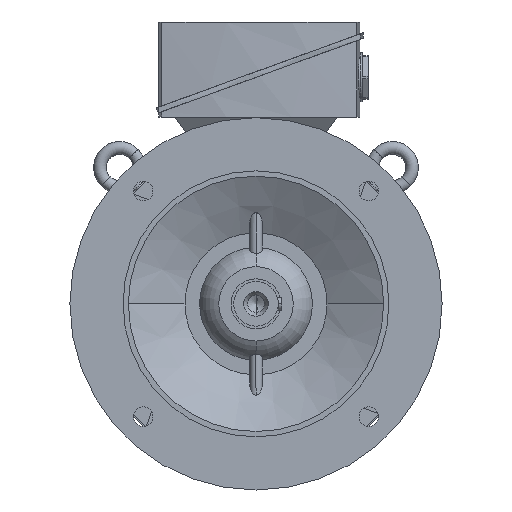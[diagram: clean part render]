
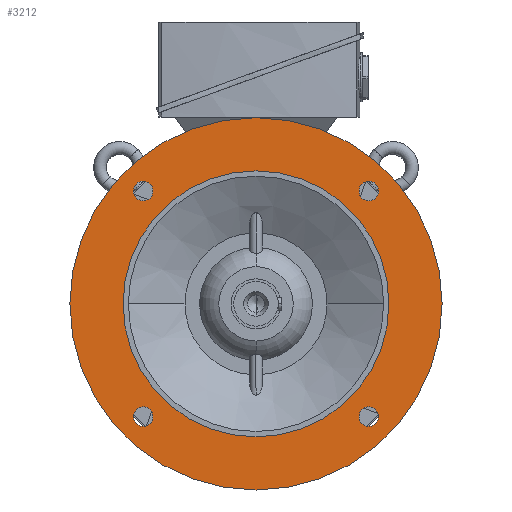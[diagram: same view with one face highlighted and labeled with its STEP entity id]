
A CAD part, left-side view. The second image highlights one B-rep face of the part: STEP entity #3212.
In plain terms, the highlighted planar face has unit normal (-1, 0, 0).
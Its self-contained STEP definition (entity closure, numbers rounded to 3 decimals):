
#3212=ADVANCED_FACE('',(#6499,#6500,#6501,#6502,#6503,#6504),#6505,.T.);
#6499=FACE_BOUND('',#9794,.T.);
#6500=FACE_BOUND('',#9795,.T.);
#6501=FACE_BOUND('',#9796,.T.);
#6502=FACE_BOUND('',#9797,.T.);
#6503=FACE_OUTER_BOUND('',#9798,.T.);
#6504=FACE_BOUND('',#9799,.T.);
#6505=PLANE('',#9800);
#9794=EDGE_LOOP('',(#19835,#19836));
#9795=EDGE_LOOP('',(#19837,#19838));
#9796=EDGE_LOOP('',(#19839,#19840));
#9797=EDGE_LOOP('',(#19841,#19842));
#9798=EDGE_LOOP('',(#19843,#19844));
#9799=EDGE_LOOP('',(#19845,#19846));
#9800=AXIS2_PLACEMENT_3D('',#19847,#19848,#19849);
#19835=ORIENTED_EDGE('',*,*,#23829,.T.);
#19836=ORIENTED_EDGE('',*,*,#20122,.T.);
#19837=ORIENTED_EDGE('',*,*,#23832,.T.);
#19838=ORIENTED_EDGE('',*,*,#20117,.T.);
#19839=ORIENTED_EDGE('',*,*,#23835,.T.);
#19840=ORIENTED_EDGE('',*,*,#20112,.T.);
#19841=ORIENTED_EDGE('',*,*,#23838,.T.);
#19842=ORIENTED_EDGE('',*,*,#20107,.T.);
#19843=ORIENTED_EDGE('',*,*,#20097,.F.);
#19844=ORIENTED_EDGE('',*,*,#23881,.F.);
#19845=ORIENTED_EDGE('',*,*,#20104,.T.);
#19846=ORIENTED_EDGE('',*,*,#23879,.T.);
#19847=CARTESIAN_POINT('',(-80.0,150.0,0.0));
#19848=DIRECTION('',(-1.0,0.0,0.0));
#19849=DIRECTION('',(0.0,-1.0,0.0));
#20097=EDGE_CURVE('',#24166,#24169,#24170,.T.);
#20104=EDGE_CURVE('',#24176,#24180,#24182,.T.);
#20107=EDGE_CURVE('',#24187,#24184,#24188,.T.);
#20112=EDGE_CURVE('',#24196,#24193,#24197,.T.);
#20117=EDGE_CURVE('',#24205,#24202,#24206,.T.);
#20122=EDGE_CURVE('',#24214,#24211,#24215,.T.);
#23829=EDGE_CURVE('',#24211,#24214,#29718,.T.);
#23832=EDGE_CURVE('',#24202,#24205,#29721,.T.);
#23835=EDGE_CURVE('',#24193,#24196,#29724,.T.);
#23838=EDGE_CURVE('',#24184,#24187,#29727,.T.);
#23879=EDGE_CURVE('',#24180,#24176,#29776,.T.);
#23881=EDGE_CURVE('',#24169,#24166,#29778,.T.);
#24166=VERTEX_POINT('',#30369);
#24169=VERTEX_POINT('',#30373);
#24170=CIRCLE('',#30374,175.0);
#24176=VERTEX_POINT('',#30381);
#24180=VERTEX_POINT('',#30386);
#24182=CIRCLE('',#30389,125.0);
#24184=VERTEX_POINT('',#30391);
#24187=VERTEX_POINT('',#30395);
#24188=CIRCLE('',#30396,9.25);
#24193=VERTEX_POINT('',#30402);
#24196=VERTEX_POINT('',#30406);
#24197=CIRCLE('',#30407,9.25);
#24202=VERTEX_POINT('',#30413);
#24205=VERTEX_POINT('',#30417);
#24206=CIRCLE('',#30418,9.25);
#24211=VERTEX_POINT('',#30424);
#24214=VERTEX_POINT('',#30428);
#24215=CIRCLE('',#30429,9.25);
#29718=CIRCLE('',#47122,9.25);
#29721=CIRCLE('',#47125,9.25);
#29724=CIRCLE('',#47128,9.25);
#29727=CIRCLE('',#47131,9.25);
#29776=CIRCLE('',#47200,125.0);
#29778=CIRCLE('',#47202,175.0);
#30369=CARTESIAN_POINT('',(-80.0,175.0,0.0));
#30373=CARTESIAN_POINT('',(-80.0,-175.0,0.));
#30374=AXIS2_PLACEMENT_3D('',#47380,#47381,#47382);
#30381=CARTESIAN_POINT('',(-80.0,125.0,0.0));
#30386=CARTESIAN_POINT('',(-80.0,-125.0,0.));
#30389=AXIS2_PLACEMENT_3D('',#47392,#47393,#47394);
#30391=CARTESIAN_POINT('',(-80.0,-112.607,112.607));
#30395=CARTESIAN_POINT('',(-80.0,-99.525,99.525));
#30396=AXIS2_PLACEMENT_3D('',#47396,#47397,#47398);
#30402=CARTESIAN_POINT('',(-80.0,112.607,112.607));
#30406=CARTESIAN_POINT('',(-80.0,99.525,99.525));
#30407=AXIS2_PLACEMENT_3D('',#47404,#47405,#47406);
#30413=CARTESIAN_POINT('',(-80.0,112.607,-112.607));
#30417=CARTESIAN_POINT('',(-80.0,99.525,-99.525));
#30418=AXIS2_PLACEMENT_3D('',#47412,#47413,#47414);
#30424=CARTESIAN_POINT('',(-80.0,-112.607,-112.607));
#30428=CARTESIAN_POINT('',(-80.0,-99.525,-99.525));
#30429=AXIS2_PLACEMENT_3D('',#47420,#47421,#47422);
#47122=AXIS2_PLACEMENT_3D('',#50768,#50769,#50770);
#47125=AXIS2_PLACEMENT_3D('',#50774,#50775,#50776);
#47128=AXIS2_PLACEMENT_3D('',#50780,#50781,#50782);
#47131=AXIS2_PLACEMENT_3D('',#50786,#50787,#50788);
#47200=AXIS2_PLACEMENT_3D('',#50815,#50816,#50817);
#47202=AXIS2_PLACEMENT_3D('',#50818,#50819,#50820);
#47380=CARTESIAN_POINT('',(-80.0,0.0,0.0));
#47381=DIRECTION('',(1.0,0.0,0.0));
#47382=DIRECTION('',(0.0,1.0,0.0));
#47392=CARTESIAN_POINT('',(-80.0,0.0,0.0));
#47393=DIRECTION('',(1.0,0.0,0.0));
#47394=DIRECTION('',(0.0,1.0,0.0));
#47396=CARTESIAN_POINT('',(-80.0,-106.066,106.066));
#47397=DIRECTION('',(1.0,0.0,-0.0));
#47398=DIRECTION('',(0.0,-0.707,0.707));
#47404=CARTESIAN_POINT('',(-80.0,106.066,106.066));
#47405=DIRECTION('',(1.0,0.0,-0.0));
#47406=DIRECTION('',(0.0,0.707,0.707));
#47412=CARTESIAN_POINT('',(-80.0,106.066,-106.066));
#47413=DIRECTION('',(1.0,-0.0,0.0));
#47414=DIRECTION('',(0.0,0.707,-0.707));
#47420=CARTESIAN_POINT('',(-80.0,-106.066,-106.066));
#47421=DIRECTION('',(1.0,0.0,0.0));
#47422=DIRECTION('',(0.0,-0.707,-0.707));
#50768=CARTESIAN_POINT('',(-80.0,-106.066,-106.066));
#50769=DIRECTION('',(1.0,0.0,0.0));
#50770=DIRECTION('',(0.0,-0.707,-0.707));
#50774=CARTESIAN_POINT('',(-80.0,106.066,-106.066));
#50775=DIRECTION('',(1.0,-0.0,0.0));
#50776=DIRECTION('',(0.0,0.707,-0.707));
#50780=CARTESIAN_POINT('',(-80.0,106.066,106.066));
#50781=DIRECTION('',(1.0,0.0,-0.0));
#50782=DIRECTION('',(0.0,0.707,0.707));
#50786=CARTESIAN_POINT('',(-80.0,-106.066,106.066));
#50787=DIRECTION('',(1.0,0.0,-0.0));
#50788=DIRECTION('',(0.0,-0.707,0.707));
#50815=CARTESIAN_POINT('',(-80.0,0.0,0.0));
#50816=DIRECTION('',(1.0,0.0,0.0));
#50817=DIRECTION('',(0.0,1.0,0.0));
#50818=CARTESIAN_POINT('',(-80.0,0.0,0.0));
#50819=DIRECTION('',(1.0,0.0,0.0));
#50820=DIRECTION('',(0.0,1.0,0.0));
